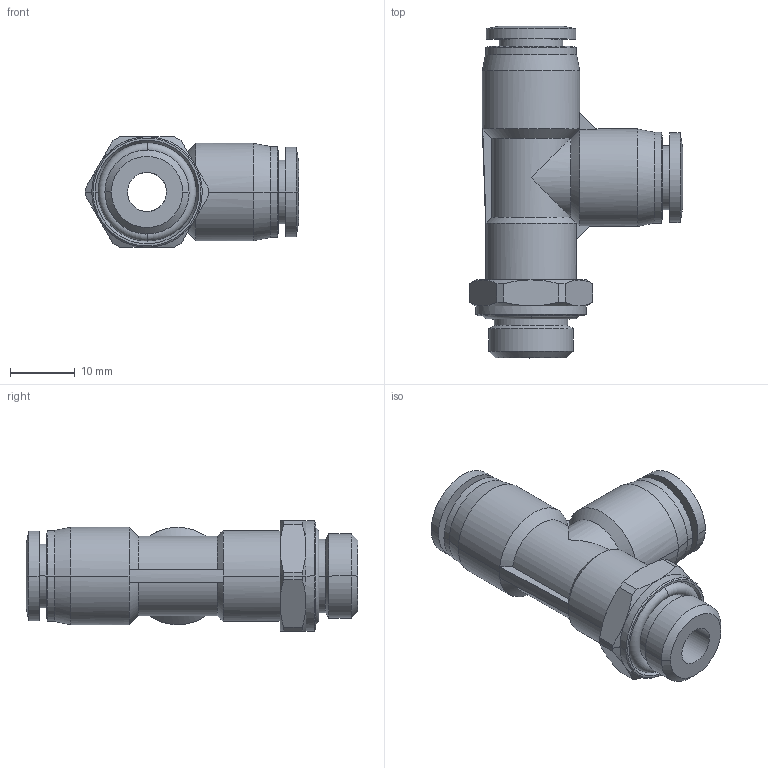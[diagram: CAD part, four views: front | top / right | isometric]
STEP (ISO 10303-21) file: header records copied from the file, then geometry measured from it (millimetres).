
FILE_DESCRIPTION (( 'STEP AP203' ), '1' );
FILE_NAME ('FLT08-02.STEP', '2020-05-12T14:16:33', ( '' ), ( '' ), 'SwSTEP 2.0', 'SolidWorks 2019', '' );
FILE_SCHEMA (( 'CONFIG_CONTROL_DESIGN' ));
Length unit declared in the file: millimetre
Products named in the file (1): FLT08-02
Bounding box: 32.85 x 51.1 x 17 mm (x, y, z)
Surface area: 5771.6 mm2 (no closed solid volume)
Topology: 0 solids, 4 shells, 122 faces, 295 edges, 184 vertices
Faces by surface type: cylinder 46, cone 40, plane 27, bspline 5, torus 4
Entity records: 5937 total; most frequent: CARTESIAN_POINT 3523, ORIENTED_EDGE 574, DIRECTION 303, EDGE_CURVE 295, B_SPLINE_CURVE_WITH_KNOTS 220, VERTEX_POINT 184, EDGE_LOOP 135, AXIS2_PLACEMENT_3D 122
